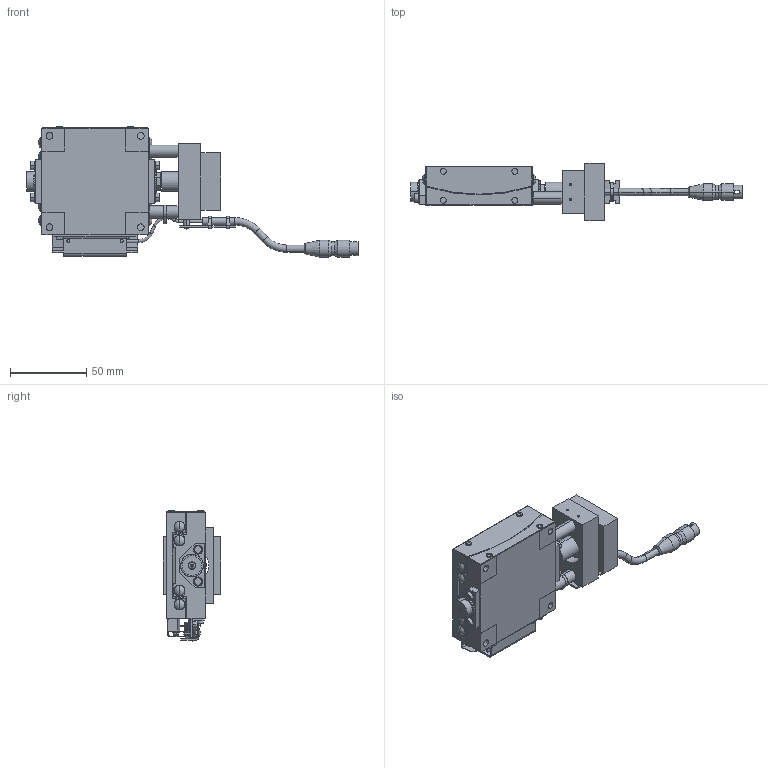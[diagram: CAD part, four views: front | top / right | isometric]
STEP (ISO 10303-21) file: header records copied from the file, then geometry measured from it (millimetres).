
FILE_DESCRIPTION (( 'STEP AP203' ), '1' );
FILE_NAME ('KGB07096ATV-LS38.STEP', '2024-03-25T09:33:04', ( '' ), ( '' ), 'SwSTEP 2.0', 'SolidWorks 2017', '' );
FILE_SCHEMA (( 'CONFIG_CONTROL_DESIGN' ));
Length unit declared in the file: millimetre
Products named in the file (6): KGB-70-S38_CADENAS; KGB-TOP-07096-L; 60-S38_C; KGB-70-T-6-L; KGB-BASE-07096-L; KGB07096ATV-LS38
Assembly tree (5 placements, depth 2):
  KGB07096ATV-LS38
    KGB-BASE-07096-L
    KGB-TOP-07096-L
    KGB-70-S38_CADENAS
    KGB-70-T-6-L
    60-S38_C
Bounding box: 218.2 x 38 x 85.5 mm (x, y, z)
Volume: 168691.5 mm3; surface area: 59536.1 mm2
Topology: 11 solids, 47 shells, 1271 faces, 3127 edges, 2000 vertices
Faces by surface type: plane 663, cylinder 428, cone 106, torus 44, sphere 20, bspline 10
Entity records: 38439 total; most frequent: CARTESIAN_POINT 7058, DIRECTION 6659, ORIENTED_EDGE 6130, EDGE_CURVE 3065, AXIS2_PLACEMENT_3D 2349, VERTEX_POINT 2000, VECTOR 1961, LINE 1961
